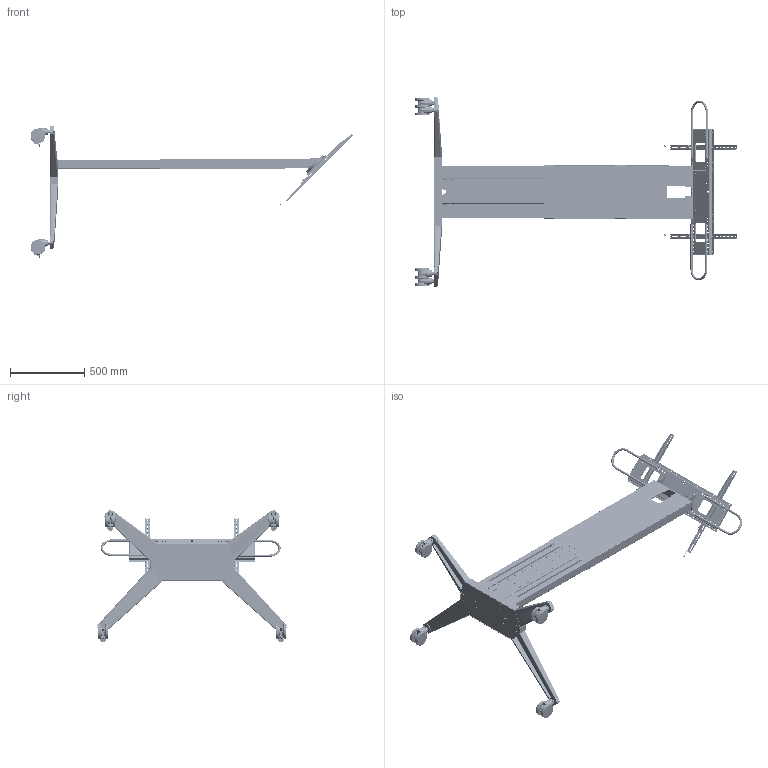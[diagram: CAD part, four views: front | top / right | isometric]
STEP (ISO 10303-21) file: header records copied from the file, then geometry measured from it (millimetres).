
FILE_DESCRIPTION((''),'2;1');
FILE_NAME('F51_FREESTANDING_MAX_ASM_ASM_ASM','2022-02-11T15:28:13',('103247'),('捷昌驱动'),'CREO PARAMETRIC BY PTC INC, 2018100','CREO PARAMETRIC BY PTC INC, 2018100','');
FILE_SCHEMA(('CONFIG_CONTROL_DESIGN'));
Products named in the file (90): RR05-304_TOP_BRACKET_42_4_1; JCSP-0722_1_1_2_1_1; JS36DR-2331_AF0_1_1; JS36DR-2330_ASM_1_ASM_1_ASM; JS36DR-1576_1_1; JS36DR-2329_ASM_1_ASM_1_ASM; JS36DR-2329_ASM_ASM_1_ASM; RR05-251_LEG_TOP4_ASM_27_ASM_1__ASM; RR05-251_LEG_TOP5_ASM_12_ASM_1__ASM; ASM0001_ASM_2_ASM_1_ASM; PRT0001; RR05-201_FRONT_TOP_COVER_25_3_1; RR05-203_REAR_TOP_COVER_16_7_1; NS1_3_6_ASM_1_ASM_1_1_2_3_ASM_2; NS1_3_6_ASM_1_1_ASM_1_ASM_1_A_1_ASM; 0000210278_ASM_1_ASM_1_ASM_1_1__ASM; 0000210276_ASM_1_ASM_1_ASM_1_1__ASM; JCB35NS1-A_ASM_1_ASM_1_1_ASM_1__ASM; JC35TS-1804_1_1_1_8_1_1; ______17135_1_1_1_1_1_1_1; ______17135_1_2_1_1_1_1_1; ______17135_1_3_1_1_1_1_1; ______17135_1_4_1_1_1_1_1; ______17135_1_5_1_1_1_1_1; ______17135_1_ASM_1_1_ASM_1_ASM_ASM; JC35TS-1807_1_ASM_1_1_ASM_1_ASM_ASM; JC35TS-1806_1_1_1_1_1_1; JC35TS-1805_1_1_1_1_1_1; JC35TF-0137_1_1_1_2_1_1; JCSP-0412_1_1_1_1_1_1; JCSP-0474_1_1_1_1_1_1; JC35TS-T191184_ASM_1_ASM_1_1_AS_ASM; JC35TS-T215007_ASM_1_ASM_1_1_AS_ASM; 2_ASM_1_1_ASM_1_ASM_1_ASM_1_ASM; RR05-300_MONITOR_CHASSIS_ASM_12_ASM; RR05-250_TOP_ASM_ASM_61_ASM_5_A_ASM; JC35TS-1668_1_1_5_1_1; RR05-256-2_BRACKET_SCREWS_8_1_1; RR05-205_REAR_BOTTOM_COVER_26_7; RR05-202-1_CONTROLLER_3_1_1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
Assembly tree (136 placements, depth 13):
  F51_FREESTANDING_MAX_ASM_ASM_ASM
    F50_FREESTANDING_MAX_ASM_ASM_1_ASM
      F50_FREESTANDING_MAX_ASM_1_ASM__ASM
        RR05-150_MAIN_ASM_ASM_103_ASM_1_ASM
          RR05-250_TOP_ASM_ASM_61_ASM_5_A_ASM
            RR05-251_LEG_TOP5_ASM_12_ASM_1__ASM
              RR05-251_LEG_TOP4_ASM_27_ASM_1__ASM
                RR05-304_TOP_BRACKET_42_4_1
                JCSP-0722_1_1_2_1_1  x8
                JS36DR-2329_ASM_ASM_1_ASM  x2
                  JS36DR-2329_ASM_1_ASM_1_ASM
            ASM0001_ASM_2_ASM_1_ASM
            PRT0001
            RR05-201_FRONT_TOP_COVER_25_3_1
            RR05-203_REAR_TOP_COVER_16_7_1
            RR05-300_MONITOR_CHASSIS_ASM_12_ASM
              2_ASM_1_1_ASM_1_ASM_1_ASM_1_ASM
                JC35TS-T215007_ASM_1_ASM_1_1_AS_ASM
                  JCB35NS1-A_ASM_1_ASM_1_1_ASM_1__ASM
                  JC35TS-1804_1_1_1_8_1_1
                  JC35TS-T191184_ASM_1_ASM_1_1_AS_ASM  x2
          RR05-252_LEG_BOT_ASM_65_ASM_3_A_ASM
            JC35TS-1668_1_1_5_1_1
            RR05-256-2_BRACKET_SCREWS_8_1_1  x6
            RR05-205_REAR_BOTTOM_COVER_26_7
            RR05-202_CONTROLLER_ASM_ASM_7_A_ASM
              RR05-202-1_CONTROLLER_3_1_1
              RR05-256-2_BRACKET_SCREWS_8_1_1  x2
            ASM0001_ASM_1_ASM
              JS36DR-2342_ASM_1_1_ASM_1_ASM
                JS36DR-2340_ASM_1_1_ASM_1_ASM
                  JS36DR-2341_ASM_1_1_ASM_1_ASM
                  JC35PJ-0476_1_1_1  x2
                JC35TS-0166_1_1_1
            JS36DR-2339_ASM_ASM_1_ASM
              JS36DR-2339_ASM_1_ASM_1_ASM
                JS36DR-2338_ASM_1_ASM_1_ASM
                  JS36DR-2336_ASM_1_ASM_1_ASM
                  JC35PJ-0476_1_1_2_1  x2
                JC35TS-0166_1_1_2_1
        000_ASM_1_ASM_1_ASM
          RR05-110_BASE_ASM_ASM_ASM_4_ASM_ASM
            RR05-110_BASE_ASM_ASM_252_ASM_3_ASM
              RR05-200_BASE_HUB_ASM_96_ASM_3__ASM
                RR05-200-1_BASE_HUB_BOT_ASM_64__ASM
                  RR05-200-1_BASE_HUB_BOT_112_2_1
                  RR05-200-1-M_BASE_HUB_MID_61_1_
                RR05-200-2_BASE_HUB_TOP_ASM_45__ASM
                  RR05-200-2_BASE_HUB_TOP_93_1_1_
                  PSM-UNTHREADED-STANDOFF_14_1_1_  x8
              RR05-220_LEG_FRONT_LEFT_ASM_80__ASM
                RR05-220-1_LEG_FRONT_LEFT_BOT_2_ASM
                  RR05-220-1_LEG_FRONT_LEFT_BOT_1
                  PSM-P-CLS-M6-1_6_1_1_1  x3
                  JCSP-1755_1_1_9_1_1_1
                RR05-220-2_LEG_FRONT_LEFT_TOP_2
              RR05-230_LEG_BACK_LEFT_ASM_54_A_ASM
                RR05-230-1_LEG_BACK_LEFT_BOT__1_ASM
                  PSM-P-CLS-M6-1_6_1_1_1  x3
                  JCSP-1755_1_1_9_1_1_1
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Bounding box: 2176.48 x 1280.4 x 892.92 mm (x, y, z)
Volume: 8259964.3 mm3; surface area: 7474028.6 mm2
Topology: 97 solids, 186 shells, 6608 faces, 18283 edges, 12071 vertices
Faces by surface type: plane 3038, cylinder 2581, bspline 417, cone 272, torus 195, extrusion 99, sphere 6
Entity records: 185265 total; most frequent: CARTESIAN_POINT 72806, ORIENTED_EDGE 23390, DIRECTION 22403, EDGE_CURVE 11819, VERTEX_POINT 7797, AXIS2_PLACEMENT_3D 7570, VECTOR 7263, LINE 7166
